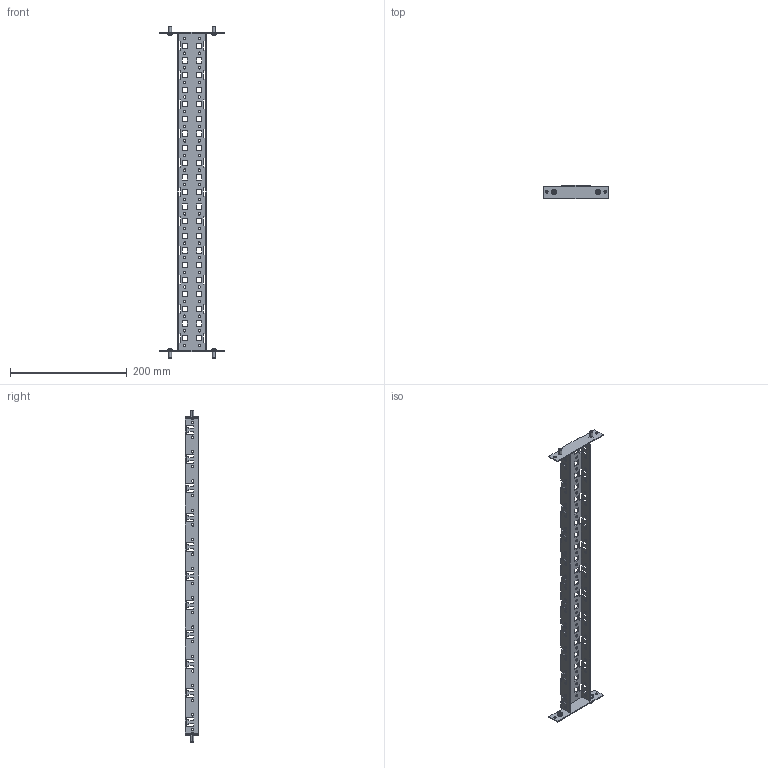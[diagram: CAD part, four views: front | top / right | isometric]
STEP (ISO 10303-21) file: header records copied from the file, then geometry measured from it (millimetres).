
FILE_DESCRIPTION(('Open CASCADE Model'),'2;1');
FILE_NAME('Open CASCADE Shape Model','2025-02-27T11:21:06',('Author'),( 'Open CASCADE'),'Open CASCADE STEP processor 7.8','Open CASCADE 7.8' ,'Unknown');
FILE_SCHEMA(('AUTOMOTIVE_DESIGN { 1 0 10303 214 1 1 1 1 }'));
Length unit declared in the file: millimetre
Products named in the file (3): Compound1; Solid1; Solid2
Assembly tree (5 placements, depth 2):
  Compound1
    Solid1
    Solid2  x4
Bounding box: 111 x 22.5 x 568 mm (x, y, z)
Volume: 69699.9 mm3; surface area: 102172.9 mm2
Topology: 5 solids, 5 shells, 846 faces, 2576 edges, 1692 vertices
Faces by surface type: plane 590, cylinder 208, cone 16, torus 16, bspline 8, sphere 8
Entity records: 27614 total; most frequent: CARTESIAN_POINT 5027, ORIENTED_EDGE 4848, DIRECTION 4382, EDGE_CURVE 2424, LINE 2002, VECTOR 2002, VERTEX_POINT 1611, AXIS2_PLACEMENT_3D 1190
